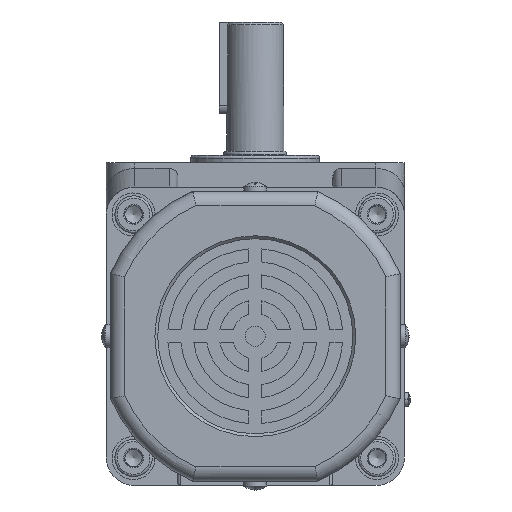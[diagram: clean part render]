
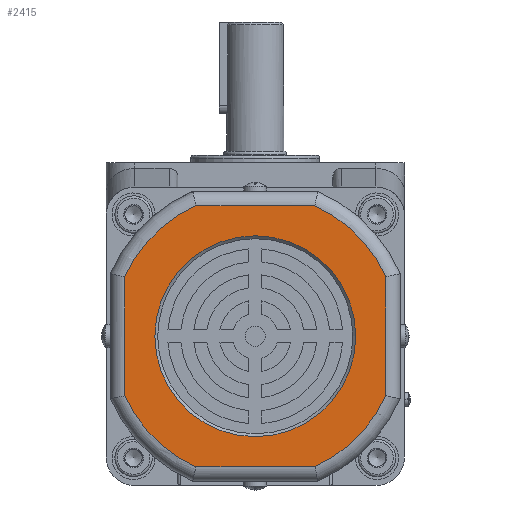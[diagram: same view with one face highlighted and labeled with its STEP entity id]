
A CAD part, front view. The second image highlights one B-rep face of the part: STEP entity #2415.
In plain terms, the highlighted planar face has unit normal (0, -1, 0).
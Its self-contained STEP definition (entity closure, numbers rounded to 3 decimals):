
#532=FACE_BOUND('',#4460,.T.);
#533=FACE_BOUND('',#4461,.T.);
#2415=ADVANCED_FACE('',(#532,#533),#3138,.F.);
#3138=PLANE('',#15207);
#4460=EDGE_LOOP('',(#6833,#6834,#6835,#6836,#6837,#6838,#6839,#6840));
#4461=EDGE_LOOP('',(#6841));
#6833=ORIENTED_EDGE('',*,*,#10820,.T.);
#6834=ORIENTED_EDGE('',*,*,#10815,.T.);
#6835=ORIENTED_EDGE('',*,*,#10822,.T.);
#6836=ORIENTED_EDGE('',*,*,#10828,.T.);
#6837=ORIENTED_EDGE('',*,*,#10834,.T.);
#6838=ORIENTED_EDGE('',*,*,#10836,.T.);
#6839=ORIENTED_EDGE('',*,*,#10832,.T.);
#6840=ORIENTED_EDGE('',*,*,#10826,.T.);
#6841=ORIENTED_EDGE('',*,*,#10813,.T.);
#9318=VERTEX_POINT('',#22802);
#9320=VERTEX_POINT('',#22817);
#9321=VERTEX_POINT('',#22819);
#9323=VERTEX_POINT('',#22847);
#9326=VERTEX_POINT('',#22865);
#9327=VERTEX_POINT('',#22881);
#9330=VERTEX_POINT('',#22899);
#9331=VERTEX_POINT('',#22915);
#9334=VERTEX_POINT('',#22933);
#10813=EDGE_CURVE('',#9318,#9318,#13963,.T.);
#10815=EDGE_CURVE('',#9321,#9320,#13964,.T.);
#10820=EDGE_CURVE('',#9323,#9321,#12273,.T.);
#10822=EDGE_CURVE('',#9320,#9326,#12274,.T.);
#10826=EDGE_CURVE('',#9327,#9323,#13967,.T.);
#10828=EDGE_CURVE('',#9326,#9330,#13968,.T.);
#10832=EDGE_CURVE('',#9331,#9327,#12277,.T.);
#10834=EDGE_CURVE('',#9330,#9334,#12278,.T.);
#10836=EDGE_CURVE('',#9334,#9331,#13970,.T.);
#12273=LINE('',#22850,#13249);
#12274=LINE('',#22866,#13250);
#12277=LINE('',#22918,#13253);
#12278=LINE('',#22934,#13254);
#13249=VECTOR('',#17855,1.);
#13250=VECTOR('',#17858,1.);
#13253=VECTOR('',#17875,1.);
#13254=VECTOR('',#17878,1.);
#13963=CIRCLE('',#15184,35.);
#13964=CIRCLE('',#15186,50.);
#13967=CIRCLE('',#15192,50.);
#13968=CIRCLE('',#15194,50.);
#13970=CIRCLE('',#15199,50.);
#15184=AXIS2_PLACEMENT_3D('',#22801,#17844,#17845);
#15186=AXIS2_PLACEMENT_3D('',#22818,#17848,#17849);
#15192=AXIS2_PLACEMENT_3D('',#22884,#17864,#17865);
#15194=AXIS2_PLACEMENT_3D('',#22900,#17868,#17869);
#15199=AXIS2_PLACEMENT_3D('',#22937,#17882,#17883);
#15207=AXIS2_PLACEMENT_3D('',#22957,#17902,#17903);
#17844=DIRECTION('',(0.,1.,0.));
#17845=DIRECTION('',(-1.,0.,0.));
#17848=DIRECTION('',(0.,-1.,0.));
#17849=DIRECTION('',(-1.,0.,0.));
#17855=DIRECTION('',(0.,0.,1.));
#17858=DIRECTION('',(-1.,0.,0.));
#17864=DIRECTION('',(0.,-1.,0.));
#17865=DIRECTION('',(-1.,0.,0.));
#17868=DIRECTION('',(0.,-1.,0.));
#17869=DIRECTION('',(-1.,0.,0.));
#17875=DIRECTION('',(1.,0.,0.));
#17878=DIRECTION('',(0.,0.,-1.));
#17882=DIRECTION('',(0.,-1.,0.));
#17883=DIRECTION('',(-1.,0.,0.));
#17902=DIRECTION('',(0.,1.,0.));
#17903=DIRECTION('',(-1.,0.,0.));
#22801=CARTESIAN_POINT('',(0.,-308.5,-60.5));
#22802=CARTESIAN_POINT('',(-35.,-308.5,-60.5));
#22817=CARTESIAN_POINT('',(20.73,-308.5,-15.));
#22818=CARTESIAN_POINT('',(0.,-308.5,-60.5));
#22819=CARTESIAN_POINT('',(45.5,-308.5,-39.77));
#22847=CARTESIAN_POINT('',(45.5,-308.5,-81.23));
#22850=CARTESIAN_POINT('',(45.5,-308.5,-38.711));
#22865=CARTESIAN_POINT('',(-20.73,-308.5,-15.));
#22866=CARTESIAN_POINT('',(-21.789,-308.5,-15.));
#22881=CARTESIAN_POINT('',(20.73,-308.5,-106.));
#22884=CARTESIAN_POINT('',(0.,-308.5,-60.5));
#22899=CARTESIAN_POINT('',(-45.5,-308.5,-39.77));
#22900=CARTESIAN_POINT('',(0.,-308.5,-60.5));
#22915=CARTESIAN_POINT('',(-20.73,-308.5,-106.));
#22918=CARTESIAN_POINT('',(21.789,-308.5,-106.));
#22933=CARTESIAN_POINT('',(-45.5,-308.5,-81.23));
#22934=CARTESIAN_POINT('',(-45.5,-308.5,-82.289));
#22937=CARTESIAN_POINT('',(0.,-308.5,-60.5));
#22957=CARTESIAN_POINT('',(0.,-308.5,-60.5));
